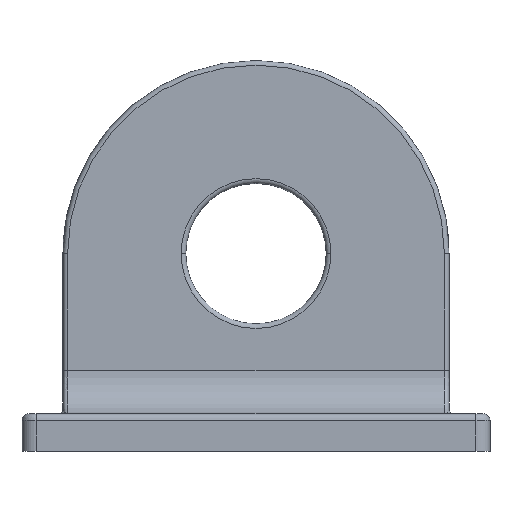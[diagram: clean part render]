
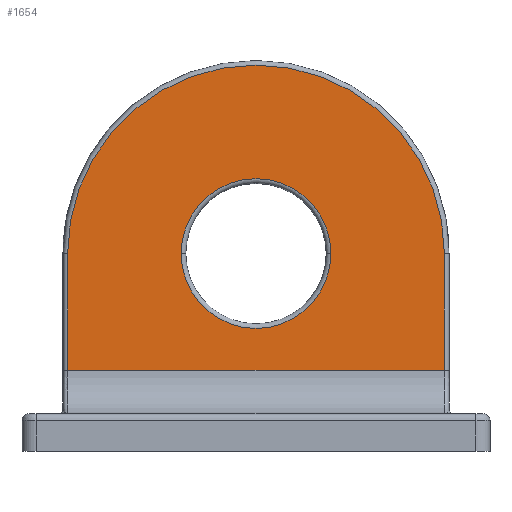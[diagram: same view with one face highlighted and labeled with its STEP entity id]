
A CAD part, top view. The second image highlights one B-rep face of the part: STEP entity #1654.
In plain terms, the highlighted planar face has unit normal (0, 0, 1).
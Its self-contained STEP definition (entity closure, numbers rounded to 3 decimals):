
#160 = CIRCLE ( 'NONE', #893, 32. ) ;
#198 = DIRECTION ( 'NONE',  ( 1., 0., 0. ) ) ;
#235 = LINE ( 'NONE', #1309, #2506 ) ;
#320 = CARTESIAN_POINT ( 'NONE',  ( 0., 84.5, 15. ) ) ;
#445 = EDGE_CURVE ( 'NONE', #723, #1029, #1503, .T. ) ;
#538 = DIRECTION ( 'NONE',  ( 0., 0., -1. ) ) ;
#579 = DIRECTION ( 'NONE',  ( -1., 0., 0. ) ) ;
#607 = DIRECTION ( 'NONE',  ( 0., 0., -1. ) ) ;
#625 = ORIENTED_EDGE ( 'NONE', *, *, #678, .T. ) ;
#678 = EDGE_CURVE ( 'NONE', #1029, #1240, #1358, .T. ) ;
#723 = VERTEX_POINT ( 'NONE', #1803 ) ;
#764 = LINE ( 'NONE', #852, #2645 ) ;
#821 = CARTESIAN_POINT ( 'NONE',  ( 0., 84.5, 15. ) ) ;
#852 = CARTESIAN_POINT ( 'NONE',  ( 80.5, 84.5, 15. ) ) ;
#885 = CARTESIAN_POINT ( 'NONE',  ( -80.5, 34.535, 15. ) ) ;
#893 = AXIS2_PLACEMENT_3D ( 'NONE', #320, #538, #2083 ) ;
#905 = DIRECTION ( 'NONE',  ( -1., 0., 0. ) ) ;
#972 = EDGE_CURVE ( 'NONE', #1597, #723, #764, .T. ) ;
#976 = FACE_BOUND ( 'NONE', #1630, .T. ) ;
#1029 = VERTEX_POINT ( 'NONE', #1464 ) ;
#1058 = CARTESIAN_POINT ( 'NONE',  ( -80.5, 34.535, 15. ) ) ;
#1067 = EDGE_CURVE ( 'NONE', #1487, #1381, #160, .T. ) ;
#1080 = ORIENTED_EDGE ( 'NONE', *, *, #2237, .T. ) ;
#1206 = ORIENTED_EDGE ( 'NONE', *, *, #1067, .T. ) ;
#1240 = VERTEX_POINT ( 'NONE', #1058 ) ;
#1309 = CARTESIAN_POINT ( 'NONE',  ( 0., 34.535, 15. ) ) ;
#1354 = CARTESIAN_POINT ( 'NONE',  ( -32., 84.5, 15. ) ) ;
#1358 = LINE ( 'NONE', #885, #1705 ) ;
#1381 = VERTEX_POINT ( 'NONE', #1354 ) ;
#1464 = CARTESIAN_POINT ( 'NONE',  ( -80.5, 84.5, 15. ) ) ;
#1487 = VERTEX_POINT ( 'NONE', #2716 ) ;
#1503 = CIRCLE ( 'NONE', #1680, 80.5 ) ;
#1597 = VERTEX_POINT ( 'NONE', #2094 ) ;
#1630 = EDGE_LOOP ( 'NONE', ( #1662, #1206 ) ) ;
#1654 = ADVANCED_FACE ( 'NONE', ( #976, #2226 ), #2369, .F. ) ;
#1662 = ORIENTED_EDGE ( 'NONE', *, *, #2811, .T. ) ;
#1680 = AXIS2_PLACEMENT_3D ( 'NONE', #821, #2643, #1931 ) ;
#1705 = VECTOR ( 'NONE', #2695, 1000. ) ;
#1803 = CARTESIAN_POINT ( 'NONE',  ( 80.5, 84.5, 15. ) ) ;
#1931 = DIRECTION ( 'NONE',  ( -1., 0., 0. ) ) ;
#1974 = EDGE_LOOP ( 'NONE', ( #1080, #2424, #2533, #625 ) ) ;
#1999 = AXIS2_PLACEMENT_3D ( 'NONE', #2235, #2022, #905 ) ;
#2022 = DIRECTION ( 'NONE',  ( 0., 0., -1. ) ) ;
#2083 = DIRECTION ( 'NONE',  ( -1., 0., 0. ) ) ;
#2094 = CARTESIAN_POINT ( 'NONE',  ( 80.5, 34.535, 15. ) ) ;
#2119 = AXIS2_PLACEMENT_3D ( 'NONE', #2121, #607, #579 ) ;
#2121 = CARTESIAN_POINT ( 'NONE',  ( 0., 84.5, 15. ) ) ;
#2226 = FACE_OUTER_BOUND ( 'NONE', #1974, .T. ) ;
#2235 = CARTESIAN_POINT ( 'NONE',  ( 0., 84.5, 15. ) ) ;
#2237 = EDGE_CURVE ( 'NONE', #1240, #1597, #235, .T. ) ;
#2369 = PLANE ( 'NONE',  #2119 ) ;
#2424 = ORIENTED_EDGE ( 'NONE', *, *, #972, .T. ) ;
#2471 = CIRCLE ( 'NONE', #1999, 32. ) ;
#2506 = VECTOR ( 'NONE', #198, 1000. ) ;
#2533 = ORIENTED_EDGE ( 'NONE', *, *, #445, .T. ) ;
#2643 = DIRECTION ( 'NONE',  ( 0., 0., 1. ) ) ;
#2645 = VECTOR ( 'NONE', #2832, 1000. ) ;
#2695 = DIRECTION ( 'NONE',  ( 0., -1., 0. ) ) ;
#2716 = CARTESIAN_POINT ( 'NONE',  ( 32., 84.5, 15. ) ) ;
#2811 = EDGE_CURVE ( 'NONE', #1381, #1487, #2471, .T. ) ;
#2832 = DIRECTION ( 'NONE',  ( 0., 1., 0. ) ) ;
